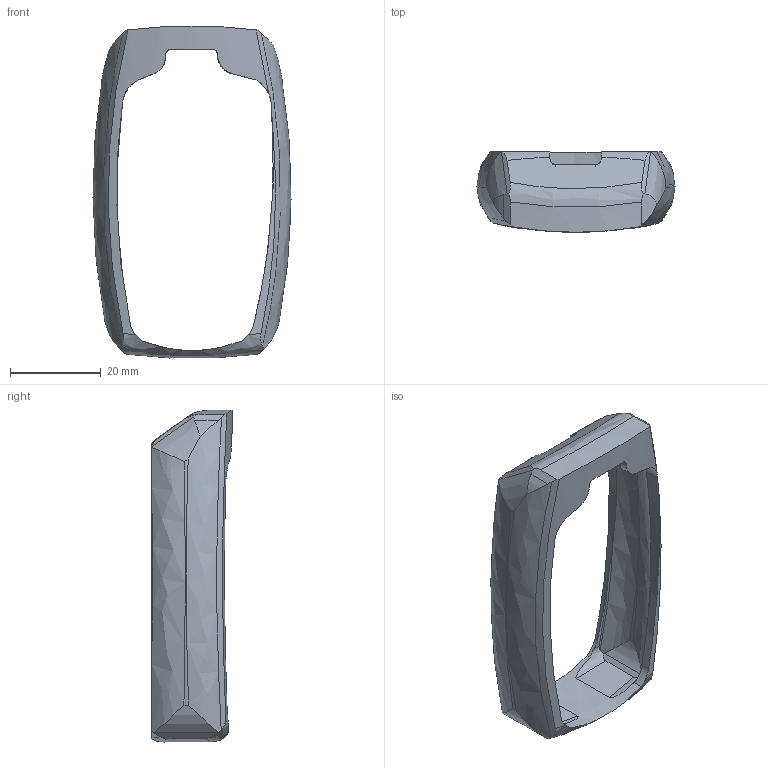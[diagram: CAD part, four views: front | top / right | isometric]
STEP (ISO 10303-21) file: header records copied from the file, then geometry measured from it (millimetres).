
FILE_DESCRIPTION(/* description */ (''),/* implementation_level */ '2;1');
FILE_NAME(/* name */ 'C:/Users/Krusil/Desktop/Fob Retainer.step',/* time_stamp */ '2018-08-02T08:13:01-04:00',/* author */ ('lkrusieski@gmail.com'),/* organization */ (''),/* preprocessor_version */ 'ST-DEVELOPER v17',/* originating_system */ 'Autodesk Translation Framework v7.1.0.215',/* authorisation */ '');
FILE_SCHEMA (('AUTOMOTIVE_DESIGN { 1 0 10303 214 3 1 1 }'));
Length unit declared in the file: inch
Products named in the file (2): Fob  Retainer; Component1
Assembly tree (1 placements, depth 2):
  Fob  Retainer
    Component1
Bounding box: 43.68 x 17.78 x 73.23 mm (x, y, z)
Volume: 7139.7 mm3; surface area: 7953.4 mm2
Topology: 1 solids, 1 shells, 103 faces, 311 edges, 208 vertices
Faces by surface type: bspline 55, cylinder 30, plane 18
Entity records: 5615 total; most frequent: CARTESIAN_POINT 3391, ORIENTED_EDGE 622, EDGE_CURVE 311, B_SPLINE_CURVE_WITH_KNOTS 235, VERTEX_POINT 208, DIRECTION 194, FACE_OUTER_BOUND 103, EDGE_LOOP 103
